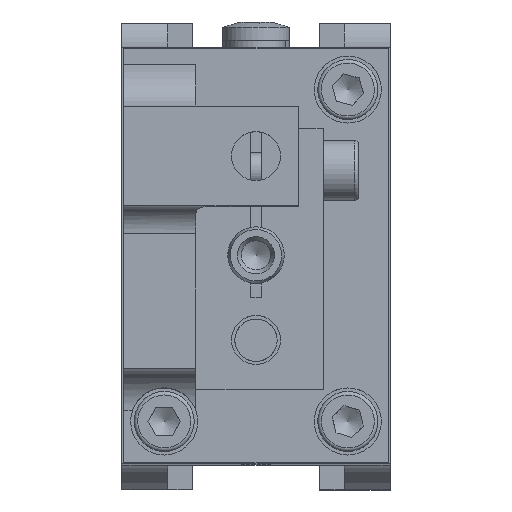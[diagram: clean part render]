
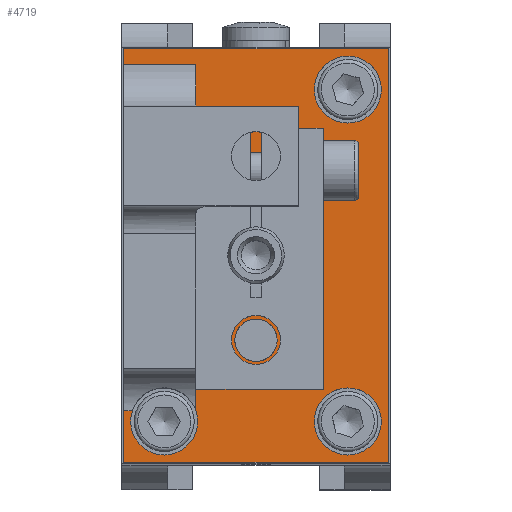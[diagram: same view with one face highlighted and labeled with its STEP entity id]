
A CAD part, top view. The second image highlights one B-rep face of the part: STEP entity #4719.
In plain terms, the highlighted planar face has unit normal (0, 0, 1).
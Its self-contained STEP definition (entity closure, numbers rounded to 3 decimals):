
#3963=CARTESIAN_POINT('',(-8.53,-21.893,77.));
#3964=VERTEX_POINT('',#3963);
#3971=CARTESIAN_POINT('',(-8.53,27.,77.));
#3972=VERTEX_POINT('',#3971);
#3973=CARTESIAN_POINT('',(-8.53,-21.893,77.));
#3974=DIRECTION('',(0.,1.0,0.0));
#3975=VECTOR('',#3974,48.893);
#3976=LINE('',#3973,#3975);
#3977=EDGE_CURVE('',#3964,#3972,#3976,.T.);
#4051=CARTESIAN_POINT('',(17.75,-23.5,77.));
#4052=VERTEX_POINT('',#4051);
#4053=CARTESIAN_POINT('',(13.,-23.5,77.));
#4054=DIRECTION('',(0.,0.,-1.0));
#4055=DIRECTION('',(1.0,0.,0.));
#4056=AXIS2_PLACEMENT_3D('',#4053,#4054,#4055);
#4057=CIRCLE('',#4056,4.75);
#4058=EDGE_CURVE('',#4052,#4052,#4057,.T.);
#4112=CARTESIAN_POINT('',(17.75,23.5,77.));
#4113=VERTEX_POINT('',#4112);
#4114=CARTESIAN_POINT('',(13.,23.5,77.));
#4115=DIRECTION('',(0.,0.,-1.0));
#4116=DIRECTION('',(1.0,0.,0.));
#4117=AXIS2_PLACEMENT_3D('',#4114,#4115,#4116);
#4118=CIRCLE('',#4117,4.75);
#4119=EDGE_CURVE('',#4113,#4113,#4118,.T.);
#4181=CARTESIAN_POINT('',(-17.507,-22.,77.));
#4182=VERTEX_POINT('',#4181);
#4183=CARTESIAN_POINT('',(-13.,-23.5,77.));
#4184=DIRECTION('',(0.,0.,-1.0));
#4185=DIRECTION('',(1.0,0.,0.));
#4186=AXIS2_PLACEMENT_3D('',#4183,#4184,#4185);
#4187=CIRCLE('',#4186,4.75);
#4188=EDGE_CURVE('',#3964,#4182,#4187,.T.);
#4337=CARTESIAN_POINT('',(-18.75,27.,77.));
#4338=VERTEX_POINT('',#4337);
#4339=CARTESIAN_POINT('',(-18.75,27.,77.));
#4340=DIRECTION('',(1.0,0.,0.));
#4341=VECTOR('',#4340,10.22);
#4342=LINE('',#4339,#4341);
#4343=EDGE_CURVE('',#4338,#3972,#4342,.T.);
#4462=CARTESIAN_POINT('',(-18.75,-22.,77.));
#4463=VERTEX_POINT('',#4462);
#4471=CARTESIAN_POINT('',(-18.75,-22.,77.));
#4472=DIRECTION('',(1.0,0.,0.));
#4473=VECTOR('',#4472,1.243);
#4474=LINE('',#4471,#4473);
#4475=EDGE_CURVE('',#4463,#4182,#4474,.T.);
#4574=CARTESIAN_POINT('',(-18.75,29.25,77.));
#4575=VERTEX_POINT('',#4574);
#4576=CARTESIAN_POINT('',(18.75,29.25,77.));
#4577=VERTEX_POINT('',#4576);
#4578=CARTESIAN_POINT('',(-18.75,29.25,77.));
#4579=DIRECTION('',(1.0,0.,0.));
#4580=VECTOR('',#4579,37.5);
#4581=LINE('',#4578,#4580);
#4582=EDGE_CURVE('',#4575,#4577,#4581,.T.);
#4614=CARTESIAN_POINT('',(-18.75,27.,77.));
#4615=DIRECTION('',(0.,1.0,0.));
#4616=VECTOR('',#4615,2.25);
#4617=LINE('',#4614,#4616);
#4618=EDGE_CURVE('',#4338,#4575,#4617,.T.);
#4629=CARTESIAN_POINT('',(-18.75,-29.25,77.));
#4630=VERTEX_POINT('',#4629);
#4637=CARTESIAN_POINT('',(-18.75,-29.25,77.));
#4638=DIRECTION('',(0.,1.0,0.0));
#4639=VECTOR('',#4638,7.25);
#4640=LINE('',#4637,#4639);
#4641=EDGE_CURVE('',#4630,#4463,#4640,.T.);
#4654=CARTESIAN_POINT('',(-8.53,-29.25,77.));
#4655=DIRECTION('',(0.0,0.0,-1.0));
#4656=DIRECTION('',(-1.0,0.,0.0));
#4657=AXIS2_PLACEMENT_3D('',#4654,#4655,#4656);
#4658=PLANE('',#4657);
#4659=ORIENTED_EDGE('',*,*,#4188,.T.);
#4660=ORIENTED_EDGE('',*,*,#4475,.F.);
#4661=ORIENTED_EDGE('',*,*,#4641,.F.);
#4662=CARTESIAN_POINT('',(18.75,-29.25,77.));
#4663=VERTEX_POINT('',#4662);
#4664=CARTESIAN_POINT('',(18.75,-29.25,77.));
#4665=DIRECTION('',(-1.0,0.,0.));
#4666=VECTOR('',#4665,37.5);
#4667=LINE('',#4664,#4666);
#4668=EDGE_CURVE('',#4663,#4630,#4667,.T.);
#4669=ORIENTED_EDGE('',*,*,#4668,.F.);
#4670=CARTESIAN_POINT('',(18.75,29.25,77.));
#4671=DIRECTION('',(0.,-1.0,0.0));
#4672=VECTOR('',#4671,58.5);
#4673=LINE('',#4670,#4672);
#4674=EDGE_CURVE('',#4577,#4663,#4673,.T.);
#4675=ORIENTED_EDGE('',*,*,#4674,.F.);
#4676=ORIENTED_EDGE('',*,*,#4582,.F.);
#4677=ORIENTED_EDGE('',*,*,#4618,.F.);
#4678=ORIENTED_EDGE('',*,*,#4343,.T.);
#4679=ORIENTED_EDGE('',*,*,#3977,.F.);
#4680=EDGE_LOOP('',(#4659,#4660,#4661,#4669,#4675,#4676,#4677,#4678,#4679));
#4681=FACE_OUTER_BOUND('',#4680,.T.);
#4682=CARTESIAN_POINT('',(3.,-12.,77.));
#4683=VERTEX_POINT('',#4682);
#4684=CARTESIAN_POINT('',(0.,-12.,77.));
#4685=DIRECTION('',(0.,0.,-1.0));
#4686=DIRECTION('',(1.0,0.,0.));
#4687=AXIS2_PLACEMENT_3D('',#4684,#4685,#4686);
#4688=CIRCLE('',#4687,3.);
#4689=EDGE_CURVE('',#4683,#4683,#4688,.T.);
#4690=ORIENTED_EDGE('',*,*,#4689,.T.);
#4691=EDGE_LOOP('',(#4690));
#4692=FACE_BOUND('',#4691,.T.);
#4693=ORIENTED_EDGE('',*,*,#4058,.T.);
#4694=EDGE_LOOP('',(#4693));
#4695=FACE_BOUND('',#4694,.T.);
#4696=ORIENTED_EDGE('',*,*,#4119,.T.);
#4697=EDGE_LOOP('',(#4696));
#4698=FACE_BOUND('',#4697,.T.);
#4699=CARTESIAN_POINT('',(7.,0.,77.));
#4700=VERTEX_POINT('',#4699);
#4701=CARTESIAN_POINT('',(-0.896,-6.942,77.));
#4702=VERTEX_POINT('',#4701);
#4703=CARTESIAN_POINT('',(0.,0.,77.));
#4704=DIRECTION('',(0.,0.,-1.0));
#4705=DIRECTION('',(1.0,0.,0.));
#4706=AXIS2_PLACEMENT_3D('',#4703,#4704,#4705);
#4707=CIRCLE('',#4706,7.);
#4708=EDGE_CURVE('',#4700,#4702,#4707,.T.);
#4709=ORIENTED_EDGE('',*,*,#4708,.T.);
#4710=CARTESIAN_POINT('',(0.,0.,77.));
#4711=DIRECTION('',(0.,0.,-1.0));
#4712=DIRECTION('',(1.0,0.,0.));
#4713=AXIS2_PLACEMENT_3D('',#4710,#4711,#4712);
#4714=CIRCLE('',#4713,7.);
#4715=EDGE_CURVE('',#4702,#4700,#4714,.T.);
#4716=ORIENTED_EDGE('',*,*,#4715,.T.);
#4717=EDGE_LOOP('',(#4709,#4716));
#4718=FACE_BOUND('',#4717,.T.);
#4719=ADVANCED_FACE('',(#4681,#4692,#4695,#4698,#4718),#4658,.F.);
